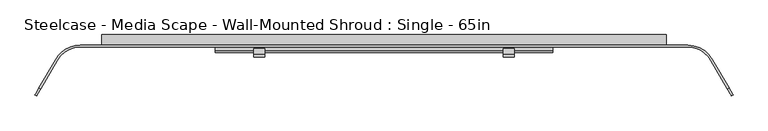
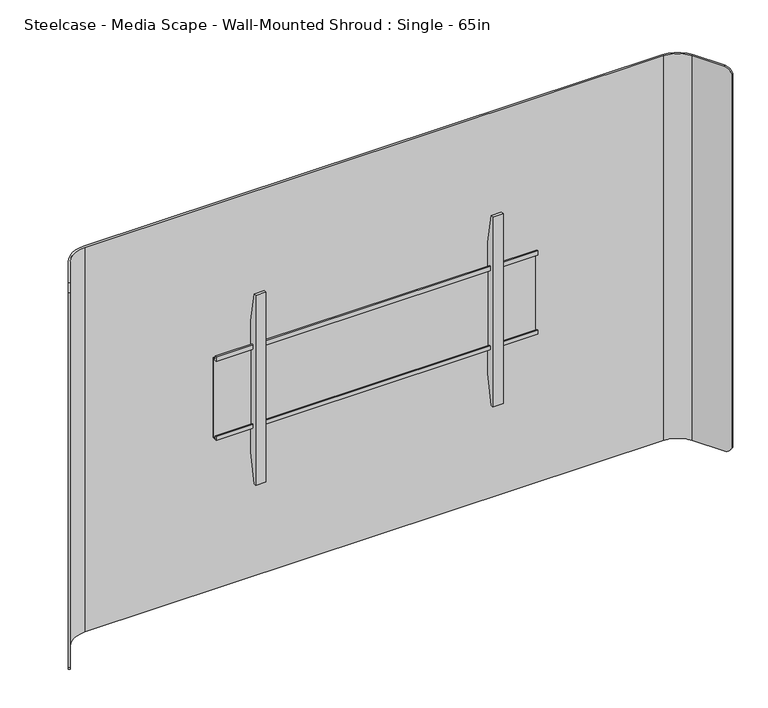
"""IFC4 building model written with IfcOpenShell, lengths in millimetres: furniture geometry, Steelcase - Media Scape - Wall-Mounted Shroud : Single - 65in."""

from ifc_helpers import new_model, si_unit, frame, origin, place, context, project, spatial, polyline, circle_curve, outline, extrude, source, transform, mapped, element, save
from ifc_brep_helpers import plane_surface, cylinder_surface, revolved_surface, advanced_brep


def steelcase_media_scape_wall_mounted_shroud_single_65in_d2882137(model_context):
    return source(origin(), model_context, "Body", "SolidModel", [
        extrude(outline(polyline([(-42.4942785, 1453.5504726), (-42.4942785, 1465.5645649), (-39.8272175, 1465.5645649), (-39.8272175, 1456.217461), (-29.9720009, 1456.217461), (-29.9720009, 1241.8922438), (-42.3164551, 1241.8922438), (-42.3164551, 1252.8142515), (-39.649394, 1252.8142515), (-39.649394, 1244.557052), (-32.6531824, 1244.557052), (-32.6531824, 1453.5504726), (-42.4942785, 1453.5504726)])), frame((-406.4, 0.0, 0.0), z_axis=(1.0, 0.0, 0.0), x_axis=(0.0, 1.0, 0.0)), (0.0, 0.0, 1.0), 812.8),
        extrude(outline(polyline([(-32.6531824, 1524.4971148), (-32.6531824, 1172.6825607), (-46.5049349, 1095.0546949), (-53.3399828, 1095.0546949), (-53.3399828, 1603.0547192), (-46.5050076, 1603.0547192), (-32.6531824, 1524.4971148)])), frame((286.6392868, 0.0, 0.0), z_axis=(1.0, 0.0, 0.0), x_axis=(0.0, 1.0, 0.0)), (0.0, 0.0, 1.0), 26.1592872),
        extrude(outline(polyline([(-32.6531824, 1524.4971148), (-32.6531824, 1172.6825607), (-46.5049349, 1095.0546949), (-53.3399828, 1095.0546949), (-53.3399828, 1603.0547192), (-46.5050076, 1603.0547192), (-32.6531824, 1524.4971148)])), frame((-312.798574, 0.0, 0.0), z_axis=(1.0, 0.0, 0.0), x_axis=(0.0, 1.0, 0.0)), (0.0, 0.0, 1.0), 26.1592872),
        advanced_brep(
        [(-786.2586135, -61.722, 1864.614), (-731.266002, -29.9720009, 1864.614), (731.266, -29.9720009, 1864.614), (786.2586135, -61.722, 1864.614), (826.379586, -131.2135628, 1864.614), (830.3390541, -128.9275628, 1864.614), (790.2180817, -59.436, 1864.614), (731.266002, -25.4, 1864.614), (-731.266, -25.4, 1864.614), (-790.2180817, -59.436, 1864.614), (-830.3421659, -128.9329524, 1864.614), (-826.3826977, -131.2189524, 1864.614), (-790.2180817, -59.436, 835.914), (-731.266002, -25.4, 835.914), (731.266, -25.4, 835.914), (790.2180817, -59.436, 835.914), (830.3906629, -129.0169518, 835.914), (826.4311948, -131.3029518, 835.914), (786.2586135, -61.722, 835.914), (731.266002, -29.9720009, 835.914), (-731.266, -29.9720009, 835.914), (-786.2586135, -61.722, 835.914), (-826.4454014, -131.3275584, 835.914), (-830.4048695, -129.0415584, 835.914), (-839.9090632, -145.5033047, 849.5242766), (-839.9090632, -145.5033047, 1850.6227735), (-835.9495951, -147.7893047, 1850.6227735), (-835.9495951, -147.7893047, 849.5242766), (835.9270866, -147.7503189, 849.4756893), (835.9270866, -147.7503189, 1850.7433849), (839.8865547, -145.4643189, 1850.7433849), (839.8865547, -145.4643189, 849.4756893)],
        [
            (0, 1, circle_curve(frame((-731.266002, -93.4719991, 1864.614), z_axis=(0.0, 0.0, -1.0), x_axis=(0.0, 1.0, 0.0)), 63.4999981)),
            (1, 2),
            (2, 3, circle_curve(frame((731.266002, -93.4719991, 1864.614), z_axis=(0.0, 0.0, -1.0), x_axis=(0.0, 1.0, 0.0)), 63.4999981)),
            (3, 4),
            (4, 5),
            (5, 6),
            (6, 7, circle_curve(frame((731.2660004, -93.472, 1864.614), z_axis=(0.0, 0.0, 1.0), x_axis=(0.0, 1.0, 0.0)), 68.072)),
            (7, 8),
            (8, 9, circle_curve(frame((-731.2660004, -93.472, 1864.614), z_axis=(0.0, 0.0, 1.0), x_axis=(0.0, 1.0, 0.0)), 68.072)),
            (9, 10),
            (10, 11),
            (11, 0),
            (12, 13, circle_curve(frame((-731.2660004, -93.472, 835.914), z_axis=(0.0, 0.0, -1.0), x_axis=(0.0, 1.0, 0.0)), 68.072)),
            (13, 14),
            (14, 15, circle_curve(frame((731.2660004, -93.472, 835.914), z_axis=(0.0, 0.0, -1.0), x_axis=(0.0, 1.0, 0.0)), 68.072)),
            (15, 16),
            (16, 17),
            (17, 18),
            (18, 19, circle_curve(frame((731.266002, -93.4719991, 835.914), z_axis=(0.0, 0.0, 1.0), x_axis=(0.0, 1.0, 0.0)), 63.4999981)),
            (19, 20),
            (20, 21, circle_curve(frame((-731.266002, -93.4719991, 835.914), z_axis=(0.0, 0.0, 1.0), x_axis=(0.0, 1.0, 0.0)), 63.4999981)),
            (21, 22),
            (22, 23),
            (23, 12),
            (0, 21),
            (20, 1),
            (8, 13),
            (12, 9),
            (23, 24, circle_curve(frame((-830.4048695, -129.0415584, 855.9928872), z_axis=(-0.8660254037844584, 0.49999999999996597, 0.0), x_axis=(-0.49999999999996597, -0.8660254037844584, 0.0)), 20.0788872)),
            (24, 25),
            (25, 10, circle_curve(frame((-830.3421659, -128.9329524, 1844.5351128), z_axis=(-0.8660254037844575, 0.4999999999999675, 0.0), x_axis=(-0.4999999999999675, -0.8660254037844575, 0.0)), 20.0788872)),
            (26, 25),
            (24, 27),
            (27, 26),
            (11, 26, circle_curve(frame((-826.3826977, -131.2189524, 1844.5351128), z_axis=(0.8660254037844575, -0.4999999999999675, 0.0), x_axis=(-0.4999999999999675, -0.8660254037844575, 0.0)), 20.0788872)),
            (27, 22, circle_curve(frame((-826.4454014, -131.3275584, 855.9928872), z_axis=(0.8660254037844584, -0.49999999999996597, 0.0), x_axis=(-0.49999999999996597, -0.8660254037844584, 0.0)), 20.0788872)),
            (7, 14),
            (19, 2),
            (3, 18),
            (17, 28, circle_curve(frame((826.4311948, -131.3029518, 855.9928872), z_axis=(-0.8660254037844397, -0.49999999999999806, 0.0), x_axis=(0.49999999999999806, -0.8660254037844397, 0.0)), 20.0788872)),
            (28, 29),
            (29, 4, circle_curve(frame((826.379586, -131.2135628, 1844.5351128), z_axis=(-0.8660254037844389, -0.49999999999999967, 0.0), x_axis=(0.49999999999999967, -0.8660254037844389, 0.0)), 20.0788872)),
            (30, 29),
            (28, 31),
            (31, 30),
            (15, 6),
            (5, 30, circle_curve(frame((830.3390541, -128.9275628, 1844.5351128), z_axis=(0.8660254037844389, 0.49999999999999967, 0.0), x_axis=(0.49999999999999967, -0.8660254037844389, 0.0)), 20.0788872)),
            (31, 16, circle_curve(frame((830.3906629, -129.0169518, 855.9928872), z_axis=(0.8660254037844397, 0.49999999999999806, 0.0), x_axis=(0.49999999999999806, -0.8660254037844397, 0.0)), 20.0788872)),
        ],
        [
            plane_surface(frame((-731.266002, -29.9720009, 1864.614), z_axis=(0.0, 0.0, 1.0), x_axis=(1.0, 0.0, 0.0))),
            plane_surface(frame((-731.266002, -29.9720009, 835.914), z_axis=(0.0, 0.0, -1.0), x_axis=(-1.0, 0.0, 0.0))),
            revolved_surface(polyline([(-731.266002, -29.972001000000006, 835.914), (-731.266002, -29.972001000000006, 1864.614)]), (-731.266002, -93.4719991, 835.914), (0.0, 0.0, -1.0)),
            cylinder_surface(frame((-731.2660004, -93.472, 835.914), z_axis=(0.0, 0.0, 1.0), x_axis=(0.0, 1.0, 0.0)), 68.072),
            plane_surface(frame((-790.2180817, -59.436, 1864.614), z_axis=(-0.8660254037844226, 0.5000000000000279, 0.0), x_axis=(0.0, 0.0, -1.0))),
            plane_surface(frame((-839.9090632, -145.5033047, 1864.614), z_axis=(-0.5000000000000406, -0.8660254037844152, 0.0), x_axis=(0.0, 0.0, -1.0))),
            plane_surface(frame((-835.9495951, -147.7893047, 1864.614), z_axis=(0.8660254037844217, -0.5000000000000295, 0.0), x_axis=(0.0, 0.0, -1.0))),
            plane_surface(frame((731.266, -25.4, 1864.614), z_axis=(0.0, 1.0, 0.0), x_axis=(0.0, 0.0, -1.0))),
            plane_surface(frame((-731.266, -29.9720009, 1864.614), z_axis=(0.0, -1.0, 0.0), x_axis=(0.0, 0.0, -1.0))),
            plane_surface(frame((786.2586135, -61.722, 1864.614), z_axis=(-0.8660254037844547, -0.4999999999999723, 0.0), x_axis=(0.0, 0.0, -1.0))),
            plane_surface(frame((835.9270866, -147.7503189, 1864.614), z_axis=(0.4999999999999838, -0.866025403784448, 0.0), x_axis=(0.0, 0.0, -1.0))),
            plane_surface(frame((839.8865547, -145.4643189, 1864.614), z_axis=(0.8660254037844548, 0.49999999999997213, 0.0), x_axis=(0.0, 0.0, -1.0))),
            cylinder_surface(frame((731.2660004, -93.472, 835.914), z_axis=(0.0, 0.0, 1.0), x_axis=(0.0, 1.0, 0.0)), 68.072),
            revolved_surface(polyline([(731.266002, -29.972001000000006, 835.914), (731.266002, -29.972001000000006, 1864.614)]), (731.266002, -93.4719991, 835.914), (0.0, 0.0, -1.0)),
            cylinder_surface(frame((-826.3826977, -131.2189524, 1844.5351128), z_axis=(0.8660254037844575, -0.4999999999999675, 0.0), x_axis=(-0.4999999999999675, -0.8660254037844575, 0.0)), 20.0788872),
            cylinder_surface(frame((-826.4454014, -131.3275584, 855.9928872), z_axis=(0.8660254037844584, -0.49999999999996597, 0.0), x_axis=(-0.49999999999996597, -0.8660254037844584, 0.0)), 20.0788872),
            cylinder_surface(frame((841.4864297, -122.4916225, 1844.5351128), z_axis=(0.8660254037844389, 0.49999999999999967, 0.0), x_axis=(0.49999999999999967, -0.8660254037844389, 0.0)), 20.0788872),
            cylinder_surface(frame((838.6789695, -124.2316958, 855.9928872), z_axis=(0.8660254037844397, 0.49999999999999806, 0.0), x_axis=(0.49999999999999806, -0.8660254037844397, 0.0)), 20.0788872),
        ],
        [
            (0, [[1, 2, 3, 4, 5, 6, 7, 8, 9, 10, 11, 12]]),
            (1, [[13, 14, 15, 16, 17, 18, 19, 20, 21, 22, 23, 24]]),
            (2, [[-1, 25, -21, 26]]),
            (3, [[-9, 27, -13, 28]]),
            (4, [[-28, -24, 29, 30, 31, -10]]),
            (5, [[32, -30, 33, 34]]),
            (6, [[-25, -12, 35, -34, 36, -22]]),
            (7, [[-8, 37, -14, -27]]),
            (8, [[-2, -26, -20, 38]]),
            (9, [[39, -18, 40, 41, 42, -4]]),
            (10, [[43, -41, 44, 45]]),
            (11, [[46, -6, 47, -45, 48, -16]]),
            (12, [[-7, -46, -15, -37]]),
            (13, [[-3, -38, -19, -39]]),
            (14, [[-11, -31, -32, -35]]),
            (15, [[-23, -36, -33, -29]]),
            (16, [[-5, -42, -43, -47]]),
            (17, [[-17, -48, -44, -40]]),
        ],
    ),
        extrude(outline(polyline([(912.1648167, 615.9499879), (912.1648167, 679.45), (1788.414, 679.45), (1788.414, -679.45), (912.1648167, -679.45), (912.1648167, -616.9433465), (1724.9139516, -616.9433465), (1724.9139516, 615.9499879), (912.1648167, 615.9499879)])), frame((0.0, -25.4, 0.0), z_axis=(0.0, 1.0, 0.0), x_axis=(0.0, 0.0, 1.0)), (0.0, 0.0, 1.0), 25.4),
    ])


if __name__ == "__main__":
    model = new_model("IFC4")
    model_context = context("Model", 3, world=origin())
    ifc_project = project(units=[si_unit("LENGTHUNIT", "METRE", prefix="MILLI")], contexts=[model_context])
    site = spatial("IfcSite", under=ifc_project)
    building = spatial("IfcBuilding", under=site)
    placement = place(None, origin())
    steelcase_media_scape_wall_mounted_shroud_single_65in_shape = steelcase_media_scape_wall_mounted_shroud_single_65in_d2882137(model_context)
    element("IfcFurniture", 1, ObjectType="Steelcase - Media Scape - Wall-Mounted Shroud : Single - 65in", at=placement, inside=building, context=model_context, shape_type="MappedRepresentation", body=[
        mapped(steelcase_media_scape_wall_mounted_shroud_single_65in_shape, transform((0.0, 0.0, 0.0), x_axis=(1.0, 0.0, 0.0), y_axis=(0.0, 1.0, 0.0), z_axis=(0.0, 0.0, 1.0))),
    ])
    save(model, "model.ifc")
